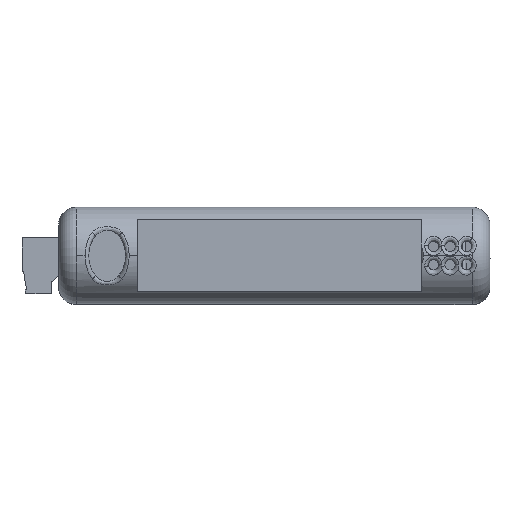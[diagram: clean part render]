
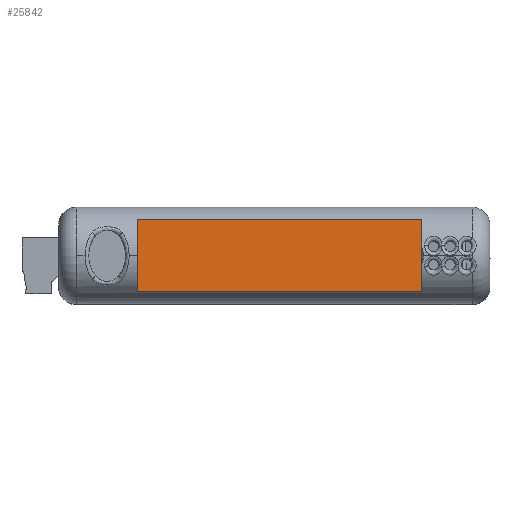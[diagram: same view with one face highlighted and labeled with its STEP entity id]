
A CAD part, top view. The second image highlights one B-rep face of the part: STEP entity #25842.
In plain terms, the highlighted planar face has unit normal (0, 0, 1).
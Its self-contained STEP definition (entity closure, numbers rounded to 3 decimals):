
#25842 = ADVANCED_FACE ( 'NONE', ( #122288 ), #125235, .T. ) ;
#32910 = EDGE_LOOP ( 'NONE', ( #65231, #65234, #65236, #65238 ) ) ;
#35956 = LINE ( 'NONE', #46643, #35957 ) ;
#35957 = VECTOR ( 'NONE', #46644, 1000. ) ;
#35969 = LINE ( 'NONE', #46663, #35970 ) ;
#35970 = VECTOR ( 'NONE', #46664, 1000. ) ;
#35971 = LINE ( 'NONE', #46665, #35972 ) ;
#35972 = VECTOR ( 'NONE', #46666, 1000. ) ;
#35973 = LINE ( 'NONE', #46667, #35974 ) ;
#35974 = VECTOR ( 'NONE', #46668, 1000. ) ;
#36834 = CARTESIAN_POINT ( 'NONE',  ( -38., 3.5, 85. ) ) ;
#36835 = CARTESIAN_POINT ( 'NONE',  ( -38., 23.5, 85. ) ) ;
#36838 = CARTESIAN_POINT ( 'NONE',  ( 41., 3.5, 85. ) ) ;
#36839 = CARTESIAN_POINT ( 'NONE',  ( 41., 23.5, 85. ) ) ;
#46643 = CARTESIAN_POINT ( 'NONE',  ( -38., 23.5, 85. ) ) ;
#46644 = DIRECTION ( 'NONE',  ( 0., -1., 0. ) ) ;
#46663 = CARTESIAN_POINT ( 'NONE',  ( -38., 23.5, 85. ) ) ;
#46664 = DIRECTION ( 'NONE',  ( 1., 0., 0. ) ) ;
#46665 = CARTESIAN_POINT ( 'NONE',  ( 41., 23.5, 85. ) ) ;
#46666 = DIRECTION ( 'NONE',  ( 0., -1., 0. ) ) ;
#46667 = CARTESIAN_POINT ( 'NONE',  ( -38., 3.5, 85. ) ) ;
#46668 = DIRECTION ( 'NONE',  ( 1., 0., 0. ) ) ;
#57021 = VERTEX_POINT ( 'NONE', #36834 ) ;
#57022 = VERTEX_POINT ( 'NONE', #36835 ) ;
#57025 = VERTEX_POINT ( 'NONE', #36838 ) ;
#57026 = VERTEX_POINT ( 'NONE', #36839 ) ;
#58684 = EDGE_CURVE ( 'NONE', #57022, #57021, #35956, .T. ) ;
#58710 = EDGE_CURVE ( 'NONE', #57022, #57026, #35969, .T. ) ;
#58713 = EDGE_CURVE ( 'NONE', #57026, #57025, #35971, .T. ) ;
#58715 = EDGE_CURVE ( 'NONE', #57021, #57025, #35973, .T. ) ;
#60478 = AXIS2_PLACEMENT_3D ( 'NONE', #125223, #125247, #125248 ) ;
#65231 = ORIENTED_EDGE ( 'NONE', *, *, #58715, .T. ) ;
#65234 = ORIENTED_EDGE ( 'NONE', *, *, #58713, .F. ) ;
#65236 = ORIENTED_EDGE ( 'NONE', *, *, #58710, .F. ) ;
#65238 = ORIENTED_EDGE ( 'NONE', *, *, #58684, .T. ) ;
#122288 = FACE_OUTER_BOUND ( 'NONE', #32910, .T. ) ;
#125223 = CARTESIAN_POINT ( 'NONE',  ( -38., 23.5, 85. ) ) ;
#125235 = PLANE ( 'NONE',  #60478 ) ;
#125247 = DIRECTION ( 'NONE',  ( 0., 0., 1. ) ) ;
#125248 = DIRECTION ( 'NONE',  ( 1., 0., 0. ) ) ;
